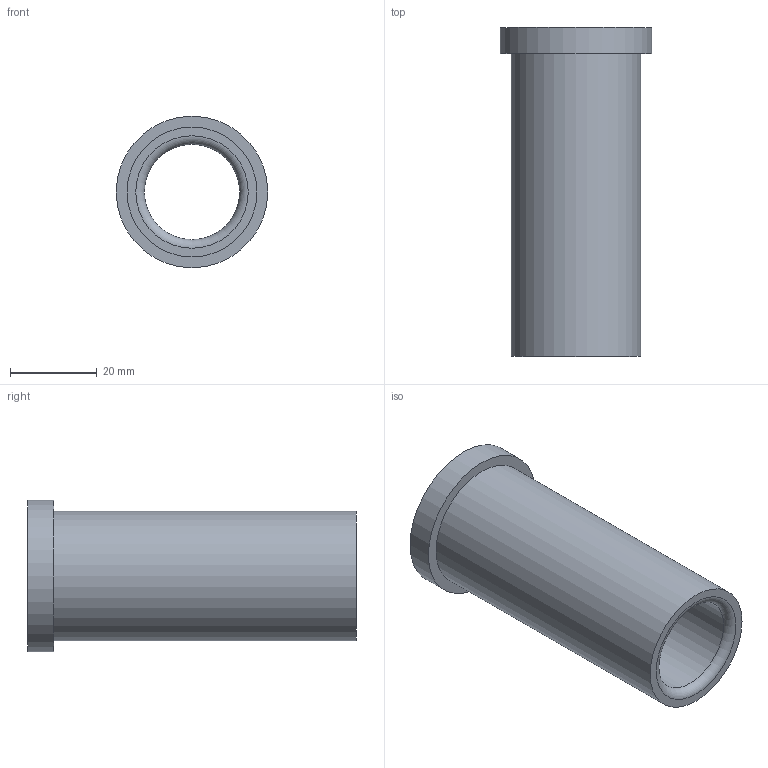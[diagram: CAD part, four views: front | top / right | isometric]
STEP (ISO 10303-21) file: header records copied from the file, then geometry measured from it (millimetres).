
FILE_DESCRIPTION(/* description */ ('STEP AP214'),/* implementation_level */ '2;1');
FILE_NAME(/* name */ '03_12_17851',/* time_stamp */ '2023-06-15T11:35:34+02:00',/* author */ ('License CC BY-ND 4.0'),/* organization */ ('CADENAS'),/* preprocessor_version */ 'ST-DEVELOPER v19.3',/* originating_system */ 'PARTsolutions',/* authorisation */ ' ');
FILE_SCHEMA (('AUTOMOTIVE_DESIGN {1 0 10303 214 3 1 1}'));
Length unit declared in the file: millimetre
Products named in the file (1): VA_Bushing_17851
Bounding box: 35 x 76 x 35 mm (x, y, z)
Volume: 25918.1 mm3; surface area: 13585.7 mm2
Topology: 1 solids, 1 shells, 10 faces, 16 edges, 10 vertices
Faces by surface type: cylinder 4, plane 4, torus 2
Full cylindrical faces by diameter (mm): 22 x1, 22.6 x1, 30 x1, 35 x1
Entity records: 302 total; most frequent: DIRECTION 42, CARTESIAN_POINT 31, AXIS2_PLACEMENT_3D 21, ORIENTED_EDGE 20, EDGE_LOOP 20, FACE_BOUND 20, EDGE_CURVE 10, VERTEX_POINT 10
